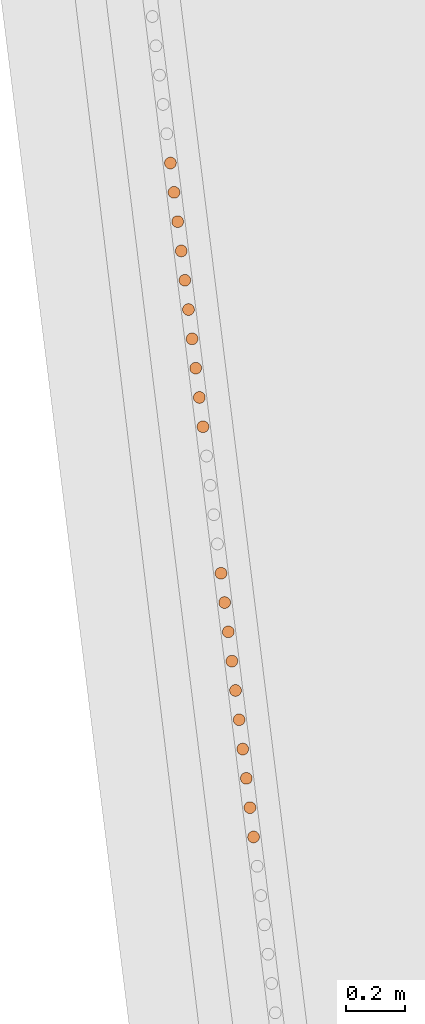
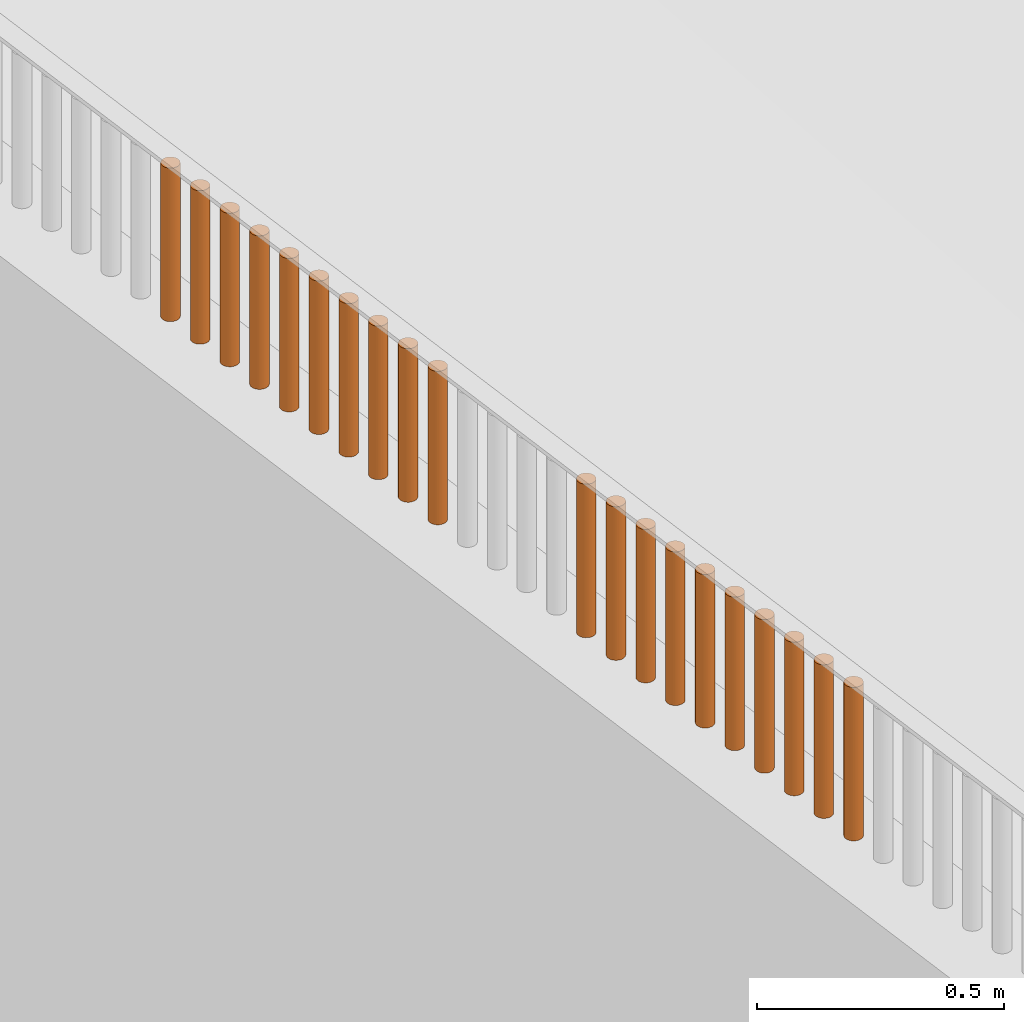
# One storey, part 231 of 1809: 20 proxies, 1 element without a shape of its own.
"""IFC2X3 building model written with IfcOpenShell, lengths in millimetres."""

import ifcopenshell
import ifcopenshell.guid

model = None  # the IFC model being written
_history = None  # IfcOwnerHistory: only IFC2X3 demands one
_inside = {}  # id of a spatial element -> (the spatial element, [elements in it])
_under = {}  # id of a project, library or spatial element -> (it, [spatial elements below it])
_declared = {}  # id of a project -> (the project, [libraries it declares])
_typed = {}  # id of a type object -> (the type object, [elements of that type])
_made_of = {}  # id of a material, layer set ... -> (it, [elements and type objects made of it])


def new_model(schema):
    """Start an empty IFC model of exactly this schema.

    Asked for "IFC4X3", IfcOpenShell would pick the latest addendum, in which some entities
    have other attributes; the version numbers below select the first issue.
    IFC2X3 requires an IfcOwnerHistory on every rooted entity: one is made here for all.
    """
    global model, _history
    if schema == "IFC4X3":
        model = ifcopenshell.file(schema_version=(4, 3, 0, 0))
    else:
        model = ifcopenshell.file(schema=schema)
    _inside.clear()
    _under.clear()
    _declared.clear()
    _typed.clear()
    _made_of.clear()
    _history = None
    if model.schema == "IFC2X3":
        org = make("IfcOrganization", Name="unknown")
        user = make(
            "IfcPersonAndOrganization",
            ThePerson=make("IfcPerson", FamilyName="unknown"),
            TheOrganization=org,
        )
        app = make(
            "IfcApplication",
            ApplicationDeveloper=org,
            Version="unknown",
            ApplicationFullName="unknown",
            ApplicationIdentifier="unknown",
        )
        _history = make(
            "IfcOwnerHistory",
            OwningUser=user,
            OwningApplication=app,
            ChangeAction="ADDED",
            CreationDate=0,
        )
    return model


def make(cls, **values):
    """One entity of the class cls with the attributes given. An attribute that is None is left unset."""
    return model.create_entity(
        cls, **{name: value for name, value in values.items() if value is not None}
    )


def entity(cls, *values):
    """Any entity or typed value of the class cls, its attributes in the order of the schema. None: left unset."""
    e = model.create_entity(cls)
    for i, value in enumerate(values):
        if value is not None:
            e[i] = value
    return e


def rooted(cls, **values):
    """An entity with a GlobalId (a new one), such as an element, a storey or a relation."""
    return make(cls, GlobalId=ifcopenshell.guid.new(), OwnerHistory=_history, **values)


def si_unit(unit_type, name, prefix=None):
    """IfcSIUnit, for example si_unit("LENGTHUNIT", "METRE", prefix="MILLI")."""
    return make("IfcSIUnit", UnitType=unit_type, Prefix=prefix, Name=name)


def converted_unit(unit_type, name, factor, base, dimensions=None, offset=None):
    """IfcConversionBasedUnit, such as the inch: factor (a typed value) times the base unit."""
    return make(
        "IfcConversionBasedUnit"
        if offset is None
        else "IfcConversionBasedUnitWithOffset",
        ConversionOffset=offset,
        Dimensions=None
        if dimensions is None
        else entity("IfcDimensionalExponents", *dimensions),
        UnitType=unit_type,
        Name=name,
        ConversionFactor=make(
            "IfcMeasureWithUnit", ValueComponent=factor, UnitComponent=base
        ),
    )


def derived_unit(unit_type, elements):
    """IfcDerivedUnit: a product of units, each with its exponent."""
    return make(
        "IfcDerivedUnit",
        Elements=[
            make("IfcDerivedUnitElement", Unit=unit, Exponent=power)
            for unit, power in elements
        ],
        UnitType=unit_type,
    )


def money_unit(currency):
    """IfcMonetaryUnit."""
    return make("IfcMonetaryUnit", Currency=currency)


def assignment(units):
    """IfcUnitAssignment: the units of a project."""
    return None if units is None else make("IfcUnitAssignment", Units=units)


def point(xyz):
    """IfcCartesianPoint."""
    return None if xyz is None else make("IfcCartesianPoint", Coordinates=xyz)


def direction(xyz):
    """IfcDirection."""
    return None if xyz is None else make("IfcDirection", DirectionRatios=xyz)


def frame(location, z_axis=None, x_axis=None):
    """IfcAxis2Placement3D, a coordinate frame: its origin and axes. An axis left out is left unset."""
    return make(
        "IfcAxis2Placement3D",
        Location=point(location),
        Axis=direction(z_axis),
        RefDirection=direction(x_axis),
    )


def origin_with_axes():
    """The frame at (0, 0, 0) with the z axis (0, 0, 1) and the x axis (1, 0, 0) written out."""
    return frame((0.0, 0.0, 0.0), z_axis=(0.0, 0.0, 1.0), x_axis=(1.0, 0.0, 0.0))


def place(relative_to, where):
    """IfcLocalPlacement: puts the frame where relative to a parent placement (None: the world)."""
    return make(
        "IfcLocalPlacement", PlacementRelTo=relative_to, RelativePlacement=where
    )


def context(
    kind, dimensions, precision=None, world=None, true_north=None, identifier=None
):
    """IfcGeometricRepresentationContext, for example the 3D "Model" context."""
    return make(
        "IfcGeometricRepresentationContext",
        ContextIdentifier=identifier,
        ContextType=kind,
        CoordinateSpaceDimension=dimensions,
        Precision=precision,
        WorldCoordinateSystem=world,
        TrueNorth=true_north,
    )


def subcontext(parent, identifier, kind, view, scale=None):
    """IfcGeometricRepresentationSubContext, for example "Body" below "Model"."""
    return make(
        "IfcGeometricRepresentationSubContext",
        ContextIdentifier=identifier,
        ContextType=kind,
        ParentContext=parent,
        TargetScale=scale,
        TargetView=view,
    )


def project(units=None, contexts=None):
    """IfcProject with its units and contexts."""
    return rooted(
        "IfcProject",
        Name="project",
        RepresentationContexts=contexts,
        UnitsInContext=assignment(units),
    )


def spatial(cls, under=None, at=None, **own):
    """A site, building, storey or space (cls), placed at a placement, below another one or the project."""
    s = rooted(cls, ObjectPlacement=at, **own)
    if under is not None:
        _under.setdefault(under.id(), (under, []))[1].append(s)
    return s


def faces_of(points, faces, orient=None, outer=None):
    """IfcFace entities. A face is a list of loops; a loop is a list of indices into points, from 0.

    orient and outer hold one flag for each loop. By default every Orientation is true, the
    first loop of a face is its IfcFaceOuterBound and the others are IfcFaceBound.
    """
    made = []
    for i, loops in enumerate(faces):
        bounds = []
        for j, loop in enumerate(loops):
            is_outer = j == 0 if outer is None else outer[i][j]
            bounds.append(
                make(
                    "IfcFaceOuterBound" if is_outer else "IfcFaceBound",
                    Bound=make("IfcPolyLoop", Polygon=[points[k] for k in loop]),
                    Orientation=True if orient is None else orient[i][j],
                )
            )
        made.append(make("IfcFace", Bounds=bounds))
    return made


def faceted_brep(points, faces, orient=None, outer=None, voids=None):
    """IfcFacetedBrep: a solid bounded by flat faces; with voids (closed shells), ...WithVoids."""
    shared = [point(p) for p in points]
    hull = make("IfcClosedShell", CfsFaces=faces_of(shared, faces, orient, outer))
    if voids is None:
        return make("IfcFacetedBrep", Outer=hull)
    return make(
        "IfcFacetedBrepWithVoids",
        Outer=hull,
        Voids=[
            make(cls, CfsFaces=faces_of(shared, fs, o, b)) for cls, fs, o, b in voids
        ],
    )


def shape(context_of_items, identifier, shape_type, items):
    """IfcShapeRepresentation: the items that make up one representation, for example the "Body"."""
    return make(
        "IfcShapeRepresentation",
        ContextOfItems=context_of_items,
        RepresentationIdentifier=identifier,
        RepresentationType=shape_type,
        Items=items,
    )


def source(mapping_origin, context_of_items, identifier, shape_type, items):
    """IfcRepresentationMap: a shape defined once, which mapped items show again and again."""
    return make(
        "IfcRepresentationMap",
        MappingOrigin=mapping_origin,
        MappedRepresentation=shape(context_of_items, identifier, shape_type, items),
    )


def transform(
    local_origin,
    x_axis=None,
    y_axis=None,
    z_axis=None,
    scale=None,
    scale2=None,
    scale3=None,
    uniform=True,
):
    """IfcCartesianTransformationOperator3D, or its non-uniform kind. x_axis, y_axis, z_axis: its Axis1, 2, 3."""
    if uniform:
        return make(
            "IfcCartesianTransformationOperator3D",
            Axis1=direction(x_axis),
            Axis2=direction(y_axis),
            LocalOrigin=point(local_origin),
            Scale=scale,
            Axis3=direction(z_axis),
        )
    return make(
        "IfcCartesianTransformationOperator3DnonUniform",
        Axis1=direction(x_axis),
        Axis2=direction(y_axis),
        LocalOrigin=point(local_origin),
        Scale=scale,
        Axis3=direction(z_axis),
        Scale2=scale2,
        Scale3=scale3,
    )


def mapped(mapping_source, mapping_target):
    """IfcMappedItem: shows the shape of a source again, moved by a transform."""
    return make(
        "IfcMappedItem", MappingSource=mapping_source, MappingTarget=mapping_target
    )


def material(Name=None, Category=None):
    """IfcMaterial."""
    return make("IfcMaterial", Name=Name, Category=Category)


def made_of(thing, what):
    """Note that an element or type object is made of a material, layer set ...; save() writes the relation."""
    if what is not None:
        _made_of.setdefault(what.id(), (what, []))[1].append(thing)
    return thing


def type_object(cls, material=None, **own):
    """A type object (cls), such as IfcWallType, which elements share."""
    return made_of(rooted(cls, **own), material)


def element(
    cls,
    number,
    at=None,
    inside=None,
    cuts=None,
    type_object=None,
    material=None,
    context=None,
    identifier="Body",
    shape_type=None,
    held_by="IfcProductDefinitionShape",
    body=None,
    shapes=None,
    **own,
):
    """One element of the class cls, such as IfcWall. Its Tag is "e" and its number.

    at: its placement. inside: the storey or other place that contains it. cuts: it is an
    opening in that element (IfcRelVoidsElement). A single representation is given by context,
    identifier, shape_type and body (its items); several are given by shapes. held_by: the class
    of the entity that holds the representations. save() writes the other relations.
    """
    e = rooted(cls, Tag="e%d" % number, ObjectPlacement=at, **own)
    if body is not None:
        shapes = [shape(context, identifier, shape_type, body)]
    if shapes is not None:
        e.Representation = make(held_by, Representations=shapes)
    if inside is not None:
        _inside.setdefault(inside.id(), (inside, []))[1].append(e)
    if cuts is not None:
        rooted(
            "IfcRelVoidsElement", RelatingBuildingElement=cuts, RelatedOpeningElement=e
        )
    if type_object is not None:
        _typed.setdefault(type_object.id(), (type_object, []))[1].append(e)
    return made_of(e, material)


def aggregate(whole, parts):
    """IfcRelAggregates: a whole, such as a stair, and the parts it consists of."""
    return rooted("IfcRelAggregates", RelatingObject=whole, RelatedObjects=parts)


def save(model, path):
    """Write the relations noted so far, then the file.

    IfcRelAggregates (storeys below a building ...), IfcRelContainedInSpatialStructure (elements
    in a storey), IfcRelDefinesByType, IfcRelAssociatesMaterial and IfcRelDeclares: one each for
    every whole, place, type object, material and project.
    """
    for whole, parts in _under.values():
        aggregate(whole, parts)
    for where, things in _inside.values():
        rooted(
            "IfcRelContainedInSpatialStructure",
            RelatedElements=things,
            RelatingStructure=where,
        )
    for kind, things in _typed.values():
        rooted("IfcRelDefinesByType", RelatedObjects=things, RelatingType=kind)
    for what, things in _made_of.values():
        rooted("IfcRelAssociatesMaterial", RelatedObjects=things, RelatingMaterial=what)
    for by, libraries in _declared.values():
        rooted("IfcRelDeclares", RelatingContext=by, RelatedDefinitions=libraries)
    model.write(path)


model = new_model("IFC2X3")

# Units and contexts
model_context = context("Model", 3, precision=0.01, world=origin_with_axes(), true_north=direction((0.0, 1.0)))
body_context = subcontext(model_context, "Body", "Model", "MODEL_VIEW")
ifc_project = project(units=[si_unit("LENGTHUNIT", "METRE", prefix="MILLI"), si_unit("AREAUNIT", "SQUARE_METRE"), si_unit("VOLUMEUNIT", "CUBIC_METRE"), converted_unit("PLANEANGLEUNIT", "DEGREE", entity("IfcPlaneAngleMeasure", 0.0174532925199), si_unit("PLANEANGLEUNIT", "RADIAN"), dimensions=[0, 0, 0, 0, 0, 0, 0]), si_unit("SOLIDANGLEUNIT", "STERADIAN"), money_unit("EUR"), converted_unit("TIMEUNIT", "Year", entity("IfcTimeMeasure", 31556926.0), si_unit("TIMEUNIT", "SECOND"), dimensions=[0, 0, 1, 0, 0, 0, 0]), si_unit("MASSUNIT", "GRAM", prefix="KILO"), si_unit("THERMODYNAMICTEMPERATUREUNIT", "DEGREE_CELSIUS"), si_unit("LUMINOUSINTENSITYUNIT", "LUMEN"), si_unit("ENERGYUNIT", "JOULE", prefix="MEGA"), derived_unit("THERMALCONDUCTANCEUNIT", [(si_unit("POWERUNIT", "WATT"), 1), (si_unit("LENGTHUNIT", "METRE"), -1), (si_unit("THERMODYNAMICTEMPERATUREUNIT", "KELVIN"), -1)]), derived_unit("SPECIFICHEATCAPACITYUNIT", [(si_unit("ENERGYUNIT", "JOULE"), 1), (si_unit("MASSUNIT", "GRAM", prefix="KILO"), -1), (si_unit("THERMODYNAMICTEMPERATUREUNIT", "KELVIN"), -1)]), derived_unit("MASSDENSITYUNIT", [(si_unit("MASSUNIT", "GRAM", prefix="KILO"), 1), (si_unit("VOLUMEUNIT", "CUBIC_METRE"), -1)])], contexts=[model_context])

# Site, building, storey
site_placement = place(None, origin_with_axes())
site = spatial("IfcSite", under=ifc_project, at=site_placement, Name="Politse- ja Piirivalveameti ning Päästeameti ühishoone", CompositionType="ELEMENT")
building_placement = place(site_placement, origin_with_axes())
building = spatial("IfcBuilding", under=site, at=building_placement, Name="Politse- ja Piirivalveameti ning Päästeameti ühishoone", CompositionType="ELEMENT")
storey_placement = place(building_placement, origin_with_axes())
storey = spatial("IfcBuildingStorey", under=building, at=storey_placement, Name="Esimene korrus", CompositionType="ELEMENT", Elevation=0.0)

# Proxies
building_element_proxy_type_1 = type_object("IfcBuildingElementProxyType", Name="Railing Type", PredefinedType="NOTDEFINED")
proxy_1_placement = place(storey_placement, frame((-18956.5522504, -53688.4757966, 2100.0), z_axis=(0.0, 0.0, 1.0), x_axis=(1.0, 0.0, 0.0)))
proxy_1 = element("IfcBuildingElementProxy", 1, at=proxy_1_placement, inside=storey, type_object=building_element_proxy_type_1, Name="PIIRDEAED")
ifc_material = material(Name="ET-06_Teras - Konstruktsioon")
building_element_proxy_type_2 = type_object("IfcBuildingElementProxyType", Name="IfcBuildingElementProxy", PredefinedType="NOTDEFINED")
shared_shape_1 = source(origin_with_axes(), body_context, "Body", "Brep", [
    faceted_brep([(0.0, -20.0, 0.0), (3.47296355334, -19.6961550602, 0.0), (3.47296355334, -19.6961550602, 380.000012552), (0.0, -20.0, 380.000012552), (-3.47296355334, -19.6961550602, 0.0), (-6.84040286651, -18.7938524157, 0.0), (-10.0, -17.3205080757, 0.0), (-12.8557521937, -15.3208888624, 0.0), (-15.3208888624, -12.8557521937, 0.0), (-17.3205080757, -10.0, 0.0), (-18.7938524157, -6.84040286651, 0.0), (-19.6961550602, -3.47296355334, 0.0), (-20.0, 0.0, 0.0), (-19.6961550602, 3.47296355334, 0.0), (-18.7938524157, 6.84040286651, 0.0), (-17.3205080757, 10.0, 0.0), (-15.3208888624, 12.8557521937, 0.0), (-12.8557521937, 15.3208888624, 0.0), (-10.0, 17.3205080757, 0.0), (-6.84040286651, 18.7938524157, 0.0), (-3.47296355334, 19.6961550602, 0.0), (0.0, 20.0, 0.0), (3.47296355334, 19.6961550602, 0.0), (6.84040286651, 18.7938524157, 0.0), (10.0, 17.3205080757, 0.0), (12.8557521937, 15.3208888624, 0.0), (15.3208888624, 12.8557521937, 0.0), (17.3205080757, 10.0, 0.0), (18.7938524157, 6.84040286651, 0.0), (19.6961550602, 3.47296355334, 0.0), (20.0, 0.0, 0.0), (19.6961550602, -3.47296355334, 0.0), (18.7938524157, -6.84040286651, 0.0), (17.3205080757, -10.0, 0.0), (15.3208888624, -12.8557521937, 0.0), (12.8557521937, -15.3208888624, 0.0), (10.0, -17.3205080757, 0.0), (6.84040286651, -18.7938524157, 0.0), (6.84040286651, -18.7938524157, 380.000012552), (10.0, -17.3205080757, 380.000012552), (12.8557521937, -15.3208888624, 380.000012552), (15.3208888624, -12.8557521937, 380.000012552), (17.3205080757, -10.0, 380.000012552), (18.7938524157, -6.84040286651, 380.000012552), (19.6961550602, -3.47296355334, 380.000012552), (20.0, 0.0, 380.000012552), (19.6961550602, 3.47296355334, 380.000012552), (18.7938524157, 6.84040286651, 380.000012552), (17.3205080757, 10.0, 380.000012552), (15.3208888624, 12.8557521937, 380.000012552), (12.8557521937, 15.3208888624, 380.000012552), (10.0, 17.3205080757, 380.000012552), (6.84040286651, 18.7938524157, 380.000012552), (3.47296355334, 19.6961550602, 380.000012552), (0.0, 20.0, 380.000012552), (-3.47296355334, 19.6961550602, 380.000012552), (-6.84040286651, 18.7938524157, 380.000012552), (-10.0, 17.3205080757, 380.000012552), (-12.8557521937, 15.3208888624, 380.000012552), (-15.3208888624, 12.8557521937, 380.000012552), (-17.3205080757, 10.0, 380.000012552), (-18.7938524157, 6.84040286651, 380.000012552), (-19.6961550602, 3.47296355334, 380.000012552), (-20.0, 0.0, 380.000012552), (-19.6961550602, -3.47296355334, 380.000012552), (-18.7938524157, -6.84040286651, 380.000012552), (-17.3205080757, -10.0, 380.000012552), (-15.3208888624, -12.8557521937, 380.000012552), (-12.8557521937, -15.3208888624, 380.000012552), (-10.0, -17.3205080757, 380.000012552), (-6.84040286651, -18.7938524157, 380.000012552), (-3.47296355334, -19.6961550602, 380.000012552)], [[[0, 1, 2, 3]], [[0, 4, 5, 6, 7, 8, 9, 10, 11, 12, 13, 14, 15, 16, 17, 18, 19, 20, 21, 22, 23, 24, 25, 26, 27, 28, 29, 30, 31, 32, 33, 34, 35, 36, 37, 1]], [[1, 37, 38, 2]], [[3, 2, 38, 39, 40, 41, 42, 43, 44, 45, 46, 47, 48, 49, 50, 51, 52, 53, 54, 55, 56, 57, 58, 59, 60, 61, 62, 63, 64, 65, 66, 67, 68, 69, 70, 71]], [[4, 0, 3, 71]], [[5, 4, 71, 70]], [[6, 5, 70, 69]], [[7, 6, 69, 68]], [[8, 7, 68, 67]], [[9, 8, 67, 66]], [[10, 9, 66, 65]], [[11, 10, 65, 64]], [[12, 11, 64, 63]], [[13, 12, 63, 62]], [[14, 13, 62, 61]], [[15, 14, 61, 60]], [[16, 15, 60, 59]], [[17, 16, 59, 58]], [[18, 17, 58, 57]], [[19, 18, 57, 56]], [[20, 19, 56, 55]], [[21, 20, 55, 54]], [[22, 21, 54, 53]], [[23, 22, 53, 52]], [[24, 23, 52, 51]], [[25, 24, 51, 50]], [[26, 25, 50, 49]], [[27, 26, 49, 48]], [[28, 27, 48, 47]], [[29, 28, 47, 46]], [[30, 29, 46, 45]], [[31, 30, 45, 44]], [[32, 31, 44, 43]], [[33, 32, 43, 42]], [[34, 33, 42, 41]], [[35, 34, 41, 40]], [[36, 35, 40, 39]], [[37, 36, 39, 38]]]),
])
proxy_2_placement = place(proxy_1_placement, frame((-6866.00365967, 54791.0883234, -1.25517001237e-05), z_axis=(0.0, 0.0, 1.0), x_axis=(1.0, 0.0, 0.0)))
proxy_2 = element("IfcBuildingElementProxy", 2, at=proxy_2_placement, type_object=building_element_proxy_type_2, material=ifc_material, Name="BALUSTER - 001", context=body_context, shape_type="MappedRepresentation", body=[
    mapped(shared_shape_1, transform((0.0, 0.0, 0.0), x_axis=(0.992468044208, 0.122503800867, 0.0), y_axis=(-0.122503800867, 0.992468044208, 0.0), z_axis=(0.0, 0.0, 1.0))),
])
proxy_3_placement = place(proxy_1_placement, frame((-6890.4990695, 54989.5385862, -1.25517001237e-05), z_axis=(0.0, 0.0, 1.0), x_axis=(1.0, 0.0, 0.0)))
proxy_3 = element("IfcBuildingElementProxy", 3, at=proxy_3_placement, type_object=building_element_proxy_type_2, material=ifc_material, Name="BALUSTER - 001", context=body_context, shape_type="MappedRepresentation", body=[
    mapped(shared_shape_1, transform((0.0, 0.0, 0.0), x_axis=(0.992468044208, 0.122503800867, 0.0), y_axis=(-0.122503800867, 0.992468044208, 0.0), z_axis=(0.0, 0.0, 1.0))),
])
proxy_4_placement = place(proxy_1_placement, frame((-6902.74677441, 55088.7637176, -1.25517001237e-05), z_axis=(0.0, 0.0, 1.0), x_axis=(1.0, 0.0, 0.0)))
proxy_4 = element("IfcBuildingElementProxy", 4, at=proxy_4_placement, type_object=building_element_proxy_type_2, material=ifc_material, Name="BALUSTER - 001", context=body_context, shape_type="MappedRepresentation", body=[
    mapped(shared_shape_1, transform((0.0, 0.0, 0.0), x_axis=(0.992468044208, 0.122503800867, 0.0), y_axis=(-0.122503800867, 0.992468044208, 0.0), z_axis=(0.0, 0.0, 1.0))),
])
proxy_5_placement = place(proxy_1_placement, frame((-6914.99447933, 55187.9888491, -1.25517001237e-05), z_axis=(0.0, 0.0, 1.0), x_axis=(1.0, 0.0, 0.0)))
proxy_5 = element("IfcBuildingElementProxy", 5, at=proxy_5_placement, type_object=building_element_proxy_type_2, material=ifc_material, Name="BALUSTER - 001", context=body_context, shape_type="MappedRepresentation", body=[
    mapped(shared_shape_1, transform((0.0, 0.0, 0.0), x_axis=(0.992468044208, 0.122503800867, 0.0), y_axis=(-0.122503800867, 0.992468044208, 0.0), z_axis=(0.0, 0.0, 1.0))),
])
proxy_6_placement = place(proxy_1_placement, frame((-6927.24218424, 55287.2139805, -1.25517001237e-05), z_axis=(0.0, 0.0, 1.0), x_axis=(1.0, 0.0, 0.0)))
proxy_6 = element("IfcBuildingElementProxy", 6, at=proxy_6_placement, type_object=building_element_proxy_type_2, material=ifc_material, Name="BALUSTER - 001", context=body_context, shape_type="MappedRepresentation", body=[
    mapped(shared_shape_1, transform((0.0, 0.0, 0.0), x_axis=(0.992468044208, 0.122503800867, 0.0), y_axis=(-0.122503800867, 0.992468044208, 0.0), z_axis=(0.0, 0.0, 1.0))),
])
proxy_7_placement = place(proxy_1_placement, frame((-6939.48988915, 55386.4391119, -1.25517001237e-05), z_axis=(0.0, 0.0, 1.0), x_axis=(1.0, 0.0, 0.0)))
proxy_7 = element("IfcBuildingElementProxy", 7, at=proxy_7_placement, type_object=building_element_proxy_type_2, material=ifc_material, Name="BALUSTER - 001", context=body_context, shape_type="MappedRepresentation", body=[
    mapped(shared_shape_1, transform((0.0, 0.0, 0.0), x_axis=(0.992468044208, 0.122503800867, 0.0), y_axis=(-0.122503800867, 0.992468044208, 0.0), z_axis=(0.0, 0.0, 1.0))),
])
proxy_8_placement = place(proxy_1_placement, frame((-7025.22382354, 56081.0150319, -1.25517001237e-05), z_axis=(0.0, 0.0, 1.0), x_axis=(1.0, 0.0, 0.0)))
proxy_8 = element("IfcBuildingElementProxy", 8, at=proxy_8_placement, type_object=building_element_proxy_type_2, material=ifc_material, Name="BALUSTER - 001", context=body_context, shape_type="MappedRepresentation", body=[
    mapped(shared_shape_1, transform((0.0, 0.0, 0.0), x_axis=(0.992468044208, 0.122503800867, 0.0), y_axis=(-0.122503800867, 0.992468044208, 0.0), z_axis=(0.0, 0.0, 1.0))),
])
proxy_9_placement = place(proxy_1_placement, frame((-7049.71923337, 56279.4652947, -1.25517001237e-05), z_axis=(0.0, 0.0, 1.0), x_axis=(1.0, 0.0, 0.0)))
proxy_9 = element("IfcBuildingElementProxy", 9, at=proxy_9_placement, type_object=building_element_proxy_type_2, material=ifc_material, Name="BALUSTER - 001", context=body_context, shape_type="MappedRepresentation", body=[
    mapped(shared_shape_1, transform((0.0, 0.0, 0.0), x_axis=(0.992468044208, 0.122503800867, 0.0), y_axis=(-0.122503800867, 0.992468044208, 0.0), z_axis=(0.0, 0.0, 1.0))),
])
proxy_10_placement = place(proxy_1_placement, frame((-7061.96693828, 56378.6904262, -1.25517001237e-05), z_axis=(0.0, 0.0, 1.0), x_axis=(1.0, 0.0, 0.0)))
proxy_10 = element("IfcBuildingElementProxy", 10, at=proxy_10_placement, type_object=building_element_proxy_type_2, material=ifc_material, Name="BALUSTER - 001", context=body_context, shape_type="MappedRepresentation", body=[
    mapped(shared_shape_1, transform((0.0, 0.0, 0.0), x_axis=(0.992468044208, 0.122503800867, 0.0), y_axis=(-0.122503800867, 0.992468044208, 0.0), z_axis=(0.0, 0.0, 1.0))),
])
proxy_11_placement = place(proxy_1_placement, frame((-7074.2146432, 56477.9155576, -1.25517001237e-05), z_axis=(0.0, 0.0, 1.0), x_axis=(1.0, 0.0, 0.0)))
proxy_11 = element("IfcBuildingElementProxy", 11, at=proxy_11_placement, type_object=building_element_proxy_type_2, material=ifc_material, Name="BALUSTER - 001", context=body_context, shape_type="MappedRepresentation", body=[
    mapped(shared_shape_1, transform((0.0, 0.0, 0.0), x_axis=(0.992468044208, 0.122503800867, 0.0), y_axis=(-0.122503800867, 0.992468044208, 0.0), z_axis=(0.0, 0.0, 1.0))),
])
proxy_12_placement = place(proxy_1_placement, frame((-7098.71005302, 56676.3658204, -1.25517001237e-05), z_axis=(0.0, 0.0, 1.0), x_axis=(1.0, 0.0, 0.0)))
proxy_12 = element("IfcBuildingElementProxy", 12, at=proxy_12_placement, type_object=building_element_proxy_type_2, material=ifc_material, Name="BALUSTER - 001", context=body_context, shape_type="MappedRepresentation", body=[
    mapped(shared_shape_1, transform((0.0, 0.0, 0.0), x_axis=(0.992468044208, 0.122503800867, 0.0), y_axis=(-0.122503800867, 0.992468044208, 0.0), z_axis=(0.0, 0.0, 1.0))),
])
proxy_13_placement = place(proxy_1_placement, frame((-7123.20546285, 56874.8160833, -1.25517001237e-05), z_axis=(0.0, 0.0, 1.0), x_axis=(1.0, 0.0, 0.0)))
proxy_13 = element("IfcBuildingElementProxy", 13, at=proxy_13_placement, type_object=building_element_proxy_type_2, material=ifc_material, Name="BALUSTER - 001", context=body_context, shape_type="MappedRepresentation", body=[
    mapped(shared_shape_1, transform((0.0, 0.0, 0.0), x_axis=(0.992468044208, 0.122503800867, 0.0), y_axis=(-0.122503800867, 0.992468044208, 0.0), z_axis=(0.0, 0.0, 1.0))),
])
shared_shape_2 = source(origin_with_axes(), body_context, "Body", "Brep", [
    faceted_brep([(0.0, -20.0, 0.0), (3.47296355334, -19.6961550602, 0.0), (3.47296355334, -19.6961550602, 380.000012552), (0.0, -20.0, 380.000012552), (-3.47296355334, -19.6961550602, 0.0), (-6.84040286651, -18.7938524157, 0.0), (-10.0, -17.3205080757, 0.0), (-12.8557521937, -15.3208888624, 0.0), (-15.3208888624, -12.8557521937, 0.0), (-17.3205080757, -10.0, 0.0), (-18.7938524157, -6.84040286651, 0.0), (-19.6961550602, -3.47296355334, 0.0), (-20.0, 0.0, 0.0), (-19.6961550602, 3.47296355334, 0.0), (-18.7938524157, 6.84040286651, 0.0), (-17.3205080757, 10.0, 0.0), (-15.3208888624, 12.8557521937, 0.0), (-12.8557521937, 15.3208888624, 0.0), (-10.0, 17.3205080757, 0.0), (-6.84040286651, 18.7938524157, 0.0), (-3.47296355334, 19.6961550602, 0.0), (0.0, 20.0, 0.0), (3.47296355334, 19.6961550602, 0.0), (6.84040286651, 18.7938524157, 0.0), (10.0, 17.3205080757, 0.0), (12.8557521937, 15.3208888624, 0.0), (15.3208888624, 12.8557521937, 0.0), (17.3205080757, 10.0, 0.0), (18.7938524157, 6.84040286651, 0.0), (19.6961550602, 3.47296355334, 0.0), (20.0, 0.0, 0.0), (19.6961550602, -3.47296355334, 0.0), (18.7938524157, -6.84040286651, 0.0), (17.3205080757, -10.0, 0.0), (15.3208888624, -12.8557521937, 0.0), (12.8557521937, -15.3208888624, 0.0), (10.0, -17.3205080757, 0.0), (6.84040286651, -18.7938524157, 0.0), (6.84040286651, -18.7938524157, 380.000012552), (10.0, -17.3205080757, 380.000012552), (12.8557521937, -15.3208888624, 380.000012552), (15.3208888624, -12.8557521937, 380.000012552), (17.3205080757, -10.0, 380.000012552), (18.7938524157, -6.84040286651, 380.000012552), (19.6961550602, -3.47296355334, 380.000012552), (20.0, 0.0, 380.000012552), (19.6961550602, 3.47296355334, 380.000012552), (18.7938524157, 6.84040286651, 380.000012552), (17.3205080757, 10.0, 380.000012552), (15.3208888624, 12.8557521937, 380.000012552), (12.8557521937, 15.3208888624, 380.000012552), (10.0, 17.3205080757, 380.000012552), (6.84040286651, 18.7938524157, 380.000012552), (3.47296355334, 19.6961550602, 380.000012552), (0.0, 20.0, 380.000012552), (-3.47296355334, 19.6961550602, 380.000012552), (-6.84040286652, 18.7938524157, 380.000012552), (-10.0, 17.3205080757, 380.000012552), (-12.8557521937, 15.3208888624, 380.000012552), (-15.3208888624, 12.8557521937, 380.000012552), (-17.3205080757, 10.0, 380.000012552), (-18.7938524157, 6.84040286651, 380.000012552), (-19.6961550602, 3.47296355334, 380.000012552), (-20.0, 0.0, 380.000012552), (-19.6961550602, -3.47296355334, 380.000012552), (-18.7938524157, -6.84040286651, 380.000012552), (-17.3205080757, -10.0, 380.000012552), (-15.3208888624, -12.8557521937, 380.000012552), (-12.8557521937, -15.3208888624, 380.000012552), (-10.0, -17.3205080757, 380.000012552), (-6.84040286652, -18.7938524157, 380.000012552), (-3.47296355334, -19.6961550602, 380.000012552)], [[[0, 1, 2, 3]], [[0, 4, 5, 6, 7, 8, 9, 10, 11, 12, 13, 14, 15, 16, 17, 18, 19, 20, 21, 22, 23, 24, 25, 26, 27, 28, 29, 30, 31, 32, 33, 34, 35, 36, 37, 1]], [[1, 37, 38, 2]], [[3, 2, 38, 39, 40, 41, 42, 43, 44, 45, 46, 47, 48, 49, 50, 51, 52, 53, 54, 55, 56, 57, 58, 59, 60, 61, 62, 63, 64, 65, 66, 67, 68, 69, 70, 71]], [[4, 0, 3, 71]], [[5, 4, 71, 70]], [[6, 5, 70, 69]], [[7, 6, 69, 68]], [[8, 7, 68, 67]], [[9, 8, 67, 66]], [[10, 9, 66, 65]], [[11, 10, 65, 64]], [[12, 11, 64, 63]], [[13, 12, 63, 62]], [[14, 13, 62, 61]], [[15, 14, 61, 60]], [[16, 15, 60, 59]], [[17, 16, 59, 58]], [[18, 17, 58, 57]], [[19, 18, 57, 56]], [[20, 19, 56, 55]], [[21, 20, 55, 54]], [[22, 21, 54, 53]], [[23, 22, 53, 52]], [[24, 23, 52, 51]], [[25, 24, 51, 50]], [[26, 25, 50, 49]], [[27, 26, 49, 48]], [[28, 27, 48, 47]], [[29, 28, 47, 46]], [[30, 29, 46, 45]], [[31, 30, 45, 44]], [[32, 31, 44, 43]], [[33, 32, 43, 42]], [[34, 33, 42, 41]], [[35, 34, 41, 40]], [[36, 35, 40, 39]], [[37, 36, 39, 38]]]),
])
proxy_14_placement = place(proxy_1_placement, frame((-6951.73759407, 55485.6642433, -1.25517001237e-05), z_axis=(0.0, 0.0, 1.0), x_axis=(1.0, 0.0, 0.0)))
proxy_14 = element("IfcBuildingElementProxy", 14, at=proxy_14_placement, type_object=building_element_proxy_type_2, material=ifc_material, Name="BALUSTER - 001", context=body_context, shape_type="MappedRepresentation", body=[
    mapped(shared_shape_2, transform((0.0, 0.0, 0.0), x_axis=(0.992468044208, 0.122503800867, 0.0), y_axis=(-0.122503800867, 0.992468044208, 0.0), z_axis=(0.0, 0.0, 1.0))),
])
proxy_15_placement = place(proxy_1_placement, frame((-7012.97611863, 55981.7899005, -1.25517001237e-05), z_axis=(0.0, 0.0, 1.0), x_axis=(1.0, 0.0, 0.0)))
proxy_15 = element("IfcBuildingElementProxy", 15, at=proxy_15_placement, type_object=building_element_proxy_type_2, material=ifc_material, Name="BALUSTER - 001", context=body_context, shape_type="MappedRepresentation", body=[
    mapped(shared_shape_2, transform((0.0, 0.0, 0.0), x_axis=(0.992468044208, 0.122503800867, 0.0), y_axis=(-0.122503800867, 0.992468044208, 0.0), z_axis=(0.0, 0.0, 1.0))),
])
proxy_16_placement = place(proxy_1_placement, frame((-7037.47152846, 56180.2401633, -1.25517001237e-05), z_axis=(0.0, 0.0, 1.0), x_axis=(1.0, 0.0, 0.0)))
proxy_16 = element("IfcBuildingElementProxy", 16, at=proxy_16_placement, type_object=building_element_proxy_type_2, material=ifc_material, Name="BALUSTER - 001", context=body_context, shape_type="MappedRepresentation", body=[
    mapped(shared_shape_2, transform((0.0, 0.0, 0.0), x_axis=(0.992468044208, 0.122503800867, 0.0), y_axis=(-0.122503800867, 0.992468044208, 0.0), z_axis=(0.0, 0.0, 1.0))),
])
proxy_17_placement = place(proxy_1_placement, frame((-7110.95775794, 56775.5909519, -1.25517001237e-05), z_axis=(0.0, 0.0, 1.0), x_axis=(1.0, 0.0, 0.0)))
proxy_17 = element("IfcBuildingElementProxy", 17, at=proxy_17_placement, type_object=building_element_proxy_type_2, material=ifc_material, Name="BALUSTER - 001", context=body_context, shape_type="MappedRepresentation", body=[
    mapped(shared_shape_2, transform((0.0, 0.0, 0.0), x_axis=(0.992468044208, 0.122503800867, 0.0), y_axis=(-0.122503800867, 0.992468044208, 0.0), z_axis=(0.0, 0.0, 1.0))),
])
shared_shape_3 = source(origin_with_axes(), body_context, "Body", "Brep", [
    faceted_brep([(0.0, -20.0, 0.0), (3.47296355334, -19.6961550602, 0.0), (3.47296355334, -19.6961550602, 380.000012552), (0.0, -20.0, 380.000012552), (-3.47296355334, -19.6961550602, 0.0), (-6.84040286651, -18.7938524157, 0.0), (-10.0, -17.3205080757, 0.0), (-12.8557521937, -15.3208888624, 0.0), (-15.3208888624, -12.8557521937, 0.0), (-17.3205080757, -10.0, 0.0), (-18.7938524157, -6.84040286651, 0.0), (-19.6961550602, -3.47296355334, 0.0), (-20.0, 0.0, 0.0), (-19.6961550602, 3.47296355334, 0.0), (-18.7938524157, 6.84040286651, 0.0), (-17.3205080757, 10.0, 0.0), (-15.3208888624, 12.8557521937, 0.0), (-12.8557521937, 15.3208888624, 0.0), (-10.0, 17.3205080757, 0.0), (-6.84040286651, 18.7938524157, 0.0), (-3.47296355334, 19.6961550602, 0.0), (0.0, 20.0, 0.0), (3.47296355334, 19.6961550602, 0.0), (6.84040286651, 18.7938524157, 0.0), (10.0, 17.3205080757, 0.0), (12.8557521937, 15.3208888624, 0.0), (15.3208888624, 12.8557521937, 0.0), (17.3205080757, 10.0, 0.0), (18.7938524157, 6.84040286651, 0.0), (19.6961550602, 3.47296355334, 0.0), (20.0, 0.0, 0.0), (19.6961550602, -3.47296355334, 0.0), (18.7938524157, -6.84040286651, 0.0), (17.3205080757, -10.0, 0.0), (15.3208888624, -12.8557521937, 0.0), (12.8557521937, -15.3208888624, 0.0), (10.0, -17.3205080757, 0.0), (6.84040286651, -18.7938524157, 0.0), (6.84040286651, -18.7938524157, 380.000012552), (10.0, -17.3205080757, 380.000012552), (12.8557521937, -15.3208888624, 380.000012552), (15.3208888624, -12.8557521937, 380.000012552), (17.3205080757, -10.0, 380.000012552), (18.7938524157, -6.84040286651, 380.000012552), (19.6961550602, -3.47296355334, 380.000012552), (20.0, 0.0, 380.000012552), (19.6961550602, 3.47296355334, 380.000012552), (18.7938524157, 6.84040286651, 380.000012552), (17.3205080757, 10.0, 380.000012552), (15.3208888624, 12.8557521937, 380.000012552), (12.8557521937, 15.3208888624, 380.000012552), (10.0, 17.3205080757, 380.000012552), (6.84040286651, 18.7938524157, 380.000012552), (3.47296355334, 19.6961550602, 380.000012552), (0.0, 20.0, 380.000012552), (-3.47296355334, 19.6961550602, 380.000012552), (-6.84040286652, 18.7938524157, 380.000012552), (-10.0, 17.3205080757, 380.000012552), (-12.8557521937, 15.3208888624, 380.000012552), (-15.3208888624, 12.8557521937, 380.000012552), (-17.3205080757, 10.0, 380.000012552), (-18.7938524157, 6.84040286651, 380.000012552), (-19.6961550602, 3.47296355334, 380.000012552), (-20.0, 0.0, 380.000012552), (-19.6961550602, -3.47296355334, 380.000012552), (-18.7938524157, -6.84040286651, 380.000012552), (-17.3205080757, -10.0, 380.000012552), (-15.3208888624, -12.8557521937, 380.000012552), (-12.8557521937, -15.3208888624, 380.000012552), (-10.0, -17.3205080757, 380.000012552), (-6.84040286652, -18.7938524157, 380.000012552), (-3.47296355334, -19.6961550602, 380.000012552)], [[[0, 1, 2, 3]], [[0, 4, 5, 6, 7, 8, 9, 10, 11, 12, 13, 14, 15, 16, 17, 18, 19, 20, 21, 22, 23, 24, 25, 26, 27, 28, 29, 30, 31, 32, 33, 34, 35, 36, 37, 1]], [[1, 37, 38, 2]], [[3, 2, 38, 39, 40, 41, 42, 43, 44, 45, 46, 47, 48, 49, 50, 51, 52, 53, 54, 55, 56, 57, 58, 59, 60, 61, 62, 63, 64, 65, 66, 67, 68, 69, 70, 71]], [[4, 0, 3, 71]], [[5, 4, 71, 70]], [[6, 5, 70, 69]], [[7, 6, 69, 68]], [[8, 7, 68, 67]], [[9, 8, 67, 66]], [[10, 9, 66, 65]], [[11, 10, 65, 64]], [[12, 11, 64, 63]], [[13, 12, 63, 62]], [[14, 13, 62, 61]], [[15, 14, 61, 60]], [[16, 15, 60, 59]], [[17, 16, 59, 58]], [[18, 17, 58, 57]], [[19, 18, 57, 56]], [[20, 19, 56, 55]], [[21, 20, 55, 54]], [[22, 21, 54, 53]], [[23, 22, 53, 52]], [[24, 23, 52, 51]], [[25, 24, 51, 50]], [[26, 25, 50, 49]], [[27, 26, 49, 48]], [[28, 27, 48, 47]], [[29, 28, 47, 46]], [[30, 29, 46, 45]], [[31, 30, 45, 44]], [[32, 31, 44, 43]], [[33, 32, 43, 42]], [[34, 33, 42, 41]], [[35, 34, 41, 40]], [[36, 35, 40, 39]], [[37, 36, 39, 38]]]),
])
proxy_18_placement = place(proxy_1_placement, frame((-6853.75595476, 54691.8631919, -1.25517001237e-05), z_axis=(0.0, 0.0, 1.0), x_axis=(1.0, 0.0, 0.0)))
proxy_18 = element("IfcBuildingElementProxy", 18, at=proxy_18_placement, type_object=building_element_proxy_type_2, material=ifc_material, Name="BALUSTER - 001", context=body_context, shape_type="MappedRepresentation", body=[
    mapped(shared_shape_3, transform((0.0, 0.0, 0.0), x_axis=(0.992468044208, 0.122503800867, 0.0), y_axis=(-0.122503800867, 0.992468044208, 0.0), z_axis=(0.0, 0.0, 1.0))),
])
proxy_19_placement = place(proxy_1_placement, frame((-7086.46234811, 56577.140689, -1.25517001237e-05), z_axis=(0.0, 0.0, 1.0), x_axis=(1.0, 0.0, 0.0)))
proxy_19 = element("IfcBuildingElementProxy", 19, at=proxy_19_placement, type_object=building_element_proxy_type_2, material=ifc_material, Name="BALUSTER - 001", context=body_context, shape_type="MappedRepresentation", body=[
    mapped(shared_shape_3, transform((0.0, 0.0, 0.0), x_axis=(0.992468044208, 0.122503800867, 0.0), y_axis=(-0.122503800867, 0.992468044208, 0.0), z_axis=(0.0, 0.0, 1.0))),
])
shared_shape_4 = source(origin_with_axes(), body_context, "Body", "Brep", [
    faceted_brep([(0.0, -20.0, 0.0), (3.47296355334, -19.6961550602, 0.0), (3.47296355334, -19.6961550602, 380.000012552), (0.0, -20.0, 380.000012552), (-3.47296355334, -19.6961550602, 0.0), (-6.84040286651, -18.7938524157, 0.0), (-10.0, -17.3205080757, 0.0), (-12.8557521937, -15.3208888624, 0.0), (-15.3208888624, -12.8557521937, 0.0), (-17.3205080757, -10.0, 0.0), (-18.7938524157, -6.84040286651, 0.0), (-19.6961550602, -3.47296355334, 0.0), (-20.0, 0.0, 0.0), (-19.6961550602, 3.47296355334, 0.0), (-18.7938524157, 6.84040286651, 0.0), (-17.3205080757, 10.0, 0.0), (-15.3208888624, 12.8557521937, 0.0), (-12.8557521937, 15.3208888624, 0.0), (-10.0, 17.3205080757, 0.0), (-6.84040286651, 18.7938524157, 0.0), (-3.47296355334, 19.6961550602, 0.0), (0.0, 20.0, 0.0), (3.47296355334, 19.6961550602, 0.0), (6.84040286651, 18.7938524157, 0.0), (10.0, 17.3205080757, 0.0), (12.8557521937, 15.3208888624, 0.0), (15.3208888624, 12.8557521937, 0.0), (17.3205080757, 10.0, 0.0), (18.7938524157, 6.84040286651, 0.0), (19.6961550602, 3.47296355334, 0.0), (20.0, 0.0, 0.0), (19.6961550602, -3.47296355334, 0.0), (18.7938524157, -6.84040286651, 0.0), (17.3205080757, -10.0, 0.0), (15.3208888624, -12.8557521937, 0.0), (12.8557521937, -15.3208888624, 0.0), (10.0, -17.3205080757, 0.0), (6.84040286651, -18.7938524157, 0.0), (6.84040286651, -18.7938524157, 380.000012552), (10.0, -17.3205080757, 380.000012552), (12.8557521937, -15.3208888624, 380.000012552), (15.3208888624, -12.8557521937, 380.000012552), (17.3205080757, -10.0, 380.000012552), (18.7938524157, -6.84040286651, 380.000012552), (19.6961550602, -3.47296355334, 380.000012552), (20.0, 0.0, 380.000012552), (19.6961550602, 3.47296355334, 380.000012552), (18.7938524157, 6.84040286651, 380.000012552), (17.3205080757, 10.0, 380.000012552), (15.3208888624, 12.8557521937, 380.000012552), (12.8557521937, 15.3208888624, 380.000012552), (10.0, 17.3205080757, 380.000012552), (6.84040286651, 18.7938524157, 380.000012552), (3.47296355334, 19.6961550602, 380.000012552), (0.0, 20.0, 380.000012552), (-3.47296355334, 19.6961550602, 380.000012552), (-6.84040286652, 18.7938524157, 380.000012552), (-10.0, 17.3205080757, 380.000012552), (-12.8557521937, 15.3208888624, 380.000012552), (-15.3208888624, 12.8557521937, 380.000012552), (-17.3205080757, 10.0, 380.000012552), (-18.7938524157, 6.84040286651, 380.000012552), (-19.6961550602, 3.47296355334, 380.000012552), (-20.0, 0.0, 380.000012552), (-19.6961550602, -3.47296355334, 380.000012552), (-18.7938524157, -6.84040286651, 380.000012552), (-17.3205080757, -10.0, 380.000012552), (-15.3208888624, -12.8557521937, 380.000012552), (-12.8557521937, -15.3208888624, 380.000012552), (-10.0, -17.3205080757, 380.000012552), (-6.84040286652, -18.7938524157, 380.000012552), (-3.47296355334, -19.6961550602, 380.000012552)], [[[0, 1, 2, 3]], [[0, 4, 5, 6, 7, 8, 9, 10, 11, 12, 13, 14, 15, 16, 17, 18, 19, 20, 21, 22, 23, 24, 25, 26, 27, 28, 29, 30, 31, 32, 33, 34, 35, 36, 37, 1]], [[1, 37, 38, 2]], [[3, 2, 38, 39, 40, 41, 42, 43, 44, 45, 46, 47, 48, 49, 50, 51, 52, 53, 54, 55, 56, 57, 58, 59, 60, 61, 62, 63, 64, 65, 66, 67, 68, 69, 70, 71]], [[4, 0, 3, 71]], [[5, 4, 71, 70]], [[6, 5, 70, 69]], [[7, 6, 69, 68]], [[8, 7, 68, 67]], [[9, 8, 67, 66]], [[10, 9, 66, 65]], [[11, 10, 65, 64]], [[12, 11, 64, 63]], [[13, 12, 63, 62]], [[14, 13, 62, 61]], [[15, 14, 61, 60]], [[16, 15, 60, 59]], [[17, 16, 59, 58]], [[18, 17, 58, 57]], [[19, 18, 57, 56]], [[20, 19, 56, 55]], [[21, 20, 55, 54]], [[22, 21, 54, 53]], [[23, 22, 53, 52]], [[24, 23, 52, 51]], [[25, 24, 51, 50]], [[26, 25, 50, 49]], [[27, 26, 49, 48]], [[28, 27, 48, 47]], [[29, 28, 47, 46]], [[30, 29, 46, 45]], [[31, 30, 45, 44]], [[32, 31, 44, 43]], [[33, 32, 43, 42]], [[34, 33, 42, 41]], [[35, 34, 41, 40]], [[36, 35, 40, 39]], [[37, 36, 39, 38]]]),
])
proxy_20_placement = place(proxy_1_placement, frame((-6841.50824985, 54592.6380605, -1.25517001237e-05), z_axis=(0.0, 0.0, 1.0), x_axis=(1.0, 0.0, 0.0)))
proxy_20 = element("IfcBuildingElementProxy", 20, at=proxy_20_placement, type_object=building_element_proxy_type_2, material=ifc_material, Name="BALUSTER - 001", context=body_context, shape_type="MappedRepresentation", body=[
    mapped(shared_shape_4, transform((0.0, 0.0, 0.0), x_axis=(0.992468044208, 0.122503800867, 0.0), y_axis=(-0.122503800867, 0.992468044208, 0.0), z_axis=(0.0, 0.0, 1.0))),
])
proxy_21_placement = place(proxy_1_placement, frame((-6878.25136459, 54890.3134548, -1.25517001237e-05), z_axis=(0.0, 0.0, 1.0), x_axis=(1.0, 0.0, 0.0)))
proxy_21 = element("IfcBuildingElementProxy", 21, at=proxy_21_placement, type_object=building_element_proxy_type_2, material=ifc_material, Name="BALUSTER - 001", context=body_context, shape_type="MappedRepresentation", body=[
    mapped(shared_shape_4, transform((0.0, 0.0, 0.0), x_axis=(0.992468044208, 0.122503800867, 0.0), y_axis=(-0.122503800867, 0.992468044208, 0.0), z_axis=(0.0, 0.0, 1.0))),
])
aggregate(proxy_1, [proxy_20, proxy_18, proxy_2, proxy_21, proxy_3, proxy_4, proxy_5, proxy_6, proxy_7, proxy_14, proxy_15, proxy_8, proxy_16, proxy_9, proxy_10, proxy_11, proxy_19, proxy_12, proxy_17, proxy_13])

save(model, "model.ifc")
